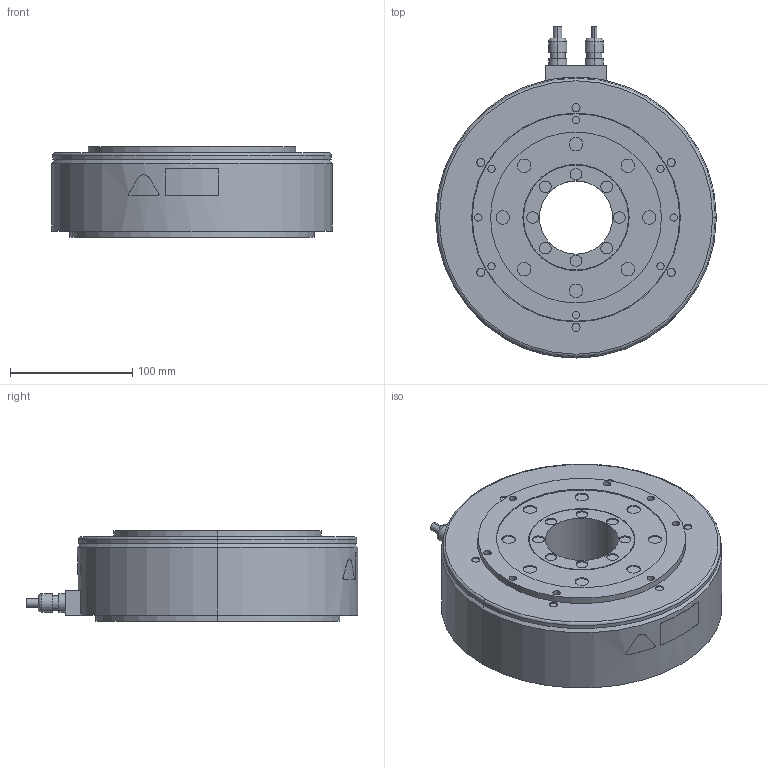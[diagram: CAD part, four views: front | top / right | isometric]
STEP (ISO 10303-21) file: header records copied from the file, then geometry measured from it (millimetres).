
FILE_DESCRIPTION (( 'STEP AP203' ), '1' );
FILE_NAME ('sgm7e_08d_a4_.STEP', '2016-06-02T07:01:48', ( '' ), ( '' ), 'SwSTEP 2.0', 'SolidWorks 2010', '' );
FILE_SCHEMA (( 'CONFIG_CONTROL_DESIGN' ));
Length unit declared in the file: millimetre
Products named in the file (1): sgm7e_08d_a4_
Bounding box: 230 x 272 x 74 mm (x, y, z)
Volume: 2708334.1 mm3; surface area: 153859.4 mm2
Topology: 1 solids, 1 shells, 234 faces, 480 edges, 316 vertices
Faces by surface type: cylinder 138, plane 81, torus 6, bspline 5, cone 4
Entity records: 6763 total; most frequent: CARTESIAN_POINT 1464, DIRECTION 1220, ORIENTED_EDGE 960, AXIS2_PLACEMENT_3D 526, EDGE_CURVE 480, VERTEX_POINT 316, EDGE_LOOP 304, CIRCLE 296
